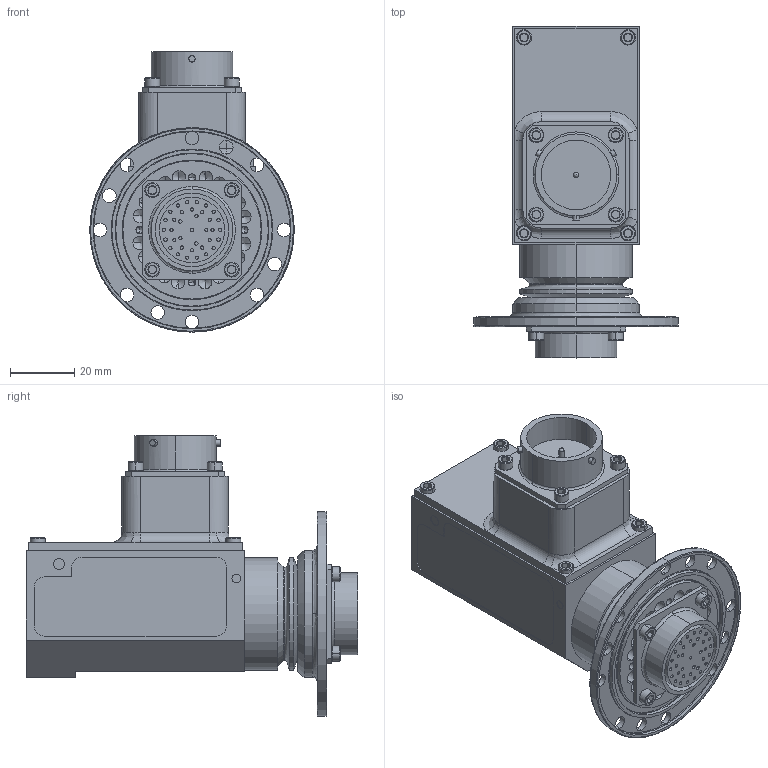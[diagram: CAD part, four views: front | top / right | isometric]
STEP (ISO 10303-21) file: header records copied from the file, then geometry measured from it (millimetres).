
FILE_DESCRIPTION (( 'STEP AP203' ), '1' );
FILE_NAME ('1002438.STEP', '2017-06-08T20:12:31', ( '' ), ( '' ), 'SwSTEP 2.0', 'SolidWorks 2014', '' );
FILE_SCHEMA (( 'CONFIG_CONTROL_DESIGN' ));
Products named in the file (1): 1002438
Bounding box: 63.47 x 103.04 x 87.01 mm (x, y, z)
Volume: 157394.6 mm3; surface area: 34775.5 mm2
Topology: 1 solids, 20 shells, 1172 faces, 2960 edges, 1863 vertices
Faces by surface type: cylinder 599, plane 313, cone 198, bspline 50, torus 8, sphere 4
Entity records: 50310 total; most frequent: CARTESIAN_POINT 23720, ORIENTED_EDGE 5818, DIRECTION 5294, EDGE_CURVE 2909, AXIS2_PLACEMENT_3D 2089, VERTEX_POINT 1861, EDGE_LOOP 1310, FACE_OUTER_BOUND 1172
